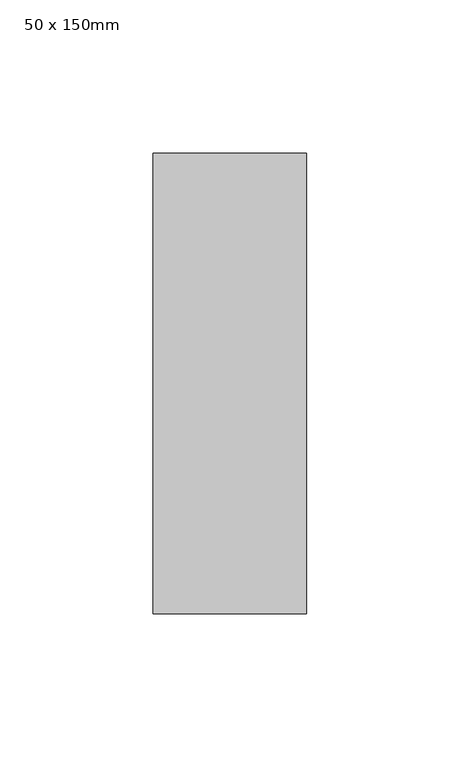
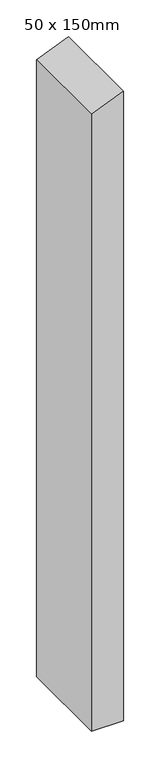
"""IFC4 building model written with IfcOpenShell, lengths in millimetres: member geometry, Prostokątny szpros : 50 x 150mm."""

from ifc_helpers import new_model, si_unit, frame, origin, place, context, project, spatial, polyline, outline, extrude, source, transform, mapped, element, save


def member_50_x_150mm_a4f11430(model_context):
    return source(origin(), model_context, "Body", "SweptSolid", [
        extrude(outline(polyline([(0.0, 0.0), (-20.7106781, -50.0), (-1046.4466094, -50.0), (-1046.4466094, 0.0), (0.0, 0.0)])), frame((0.0, -75.0, 0.0), z_axis=(0.0, 1.0, 0.0), x_axis=(0.0, 0.0, 1.0)), (0.0, 0.0, 1.0), 150.0),
    ])


if __name__ == "__main__":
    model = new_model("IFC4")
    model_context = context("Model", 3, world=origin())
    ifc_project = project(units=[si_unit("LENGTHUNIT", "METRE", prefix="MILLI")], contexts=[model_context])
    site = spatial("IfcSite", under=ifc_project)
    building = spatial("IfcBuilding", under=site)
    placement = place(None, origin())
    member_50_x_150mm_shape = member_50_x_150mm_a4f11430(model_context)
    element("IfcMember", 1, ObjectType="Prostokątny szpros : 50 x 150mm", at=placement, inside=building, context=model_context, shape_type="MappedRepresentation", body=[
        mapped(member_50_x_150mm_shape, transform((0.0, 0.0, 0.0), x_axis=(1.0, 0.0, 0.0), y_axis=(0.0, 1.0, 0.0), z_axis=(0.0, 0.0, 1.0))),
    ])
    save(model, "model.ifc")
